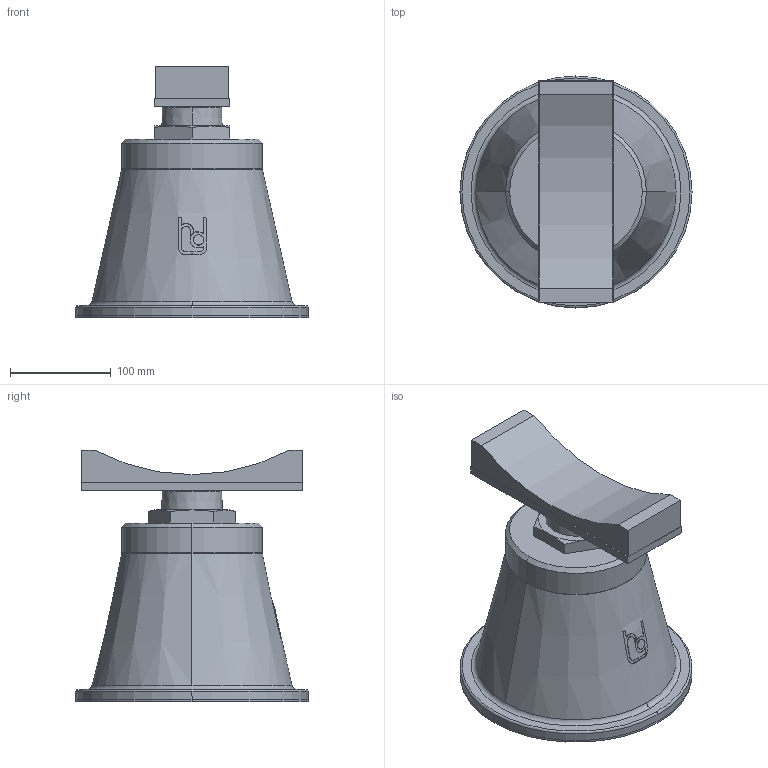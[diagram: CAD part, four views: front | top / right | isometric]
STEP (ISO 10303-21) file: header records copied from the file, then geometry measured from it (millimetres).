
FILE_DESCRIPTION(('STEP AP214'),'1');
FILE_NAME('RSRFN_DN400.stp','2018-06-29T13:10:24',(' '),(' '),'Spatial InterOp 3D',' ',' ');
FILE_SCHEMA(('automotive_design'));
Length unit declared in the file: millimetre
Products named in the file (6): 1; 2; 3; 4; 5; 6
Bounding box: 230 x 230 x 249 mm (x, y, z)
Volume: 5001620.6 mm3; surface area: 401580.3 mm2
Topology: 6 solids, 6 shells, 117 faces, 282 edges, 182 vertices
Faces by surface type: plane 49, cylinder 37, cone 23, torus 8
Entity records: 4852 total; most frequent: CARTESIAN_POINT 1045, DIRECTION 591, ORIENTED_EDGE 564, EDGE_CURVE 282, AXIS2_PLACEMENT_3D 228, VERTEX_POINT 182, LINE 135, VECTOR 135
